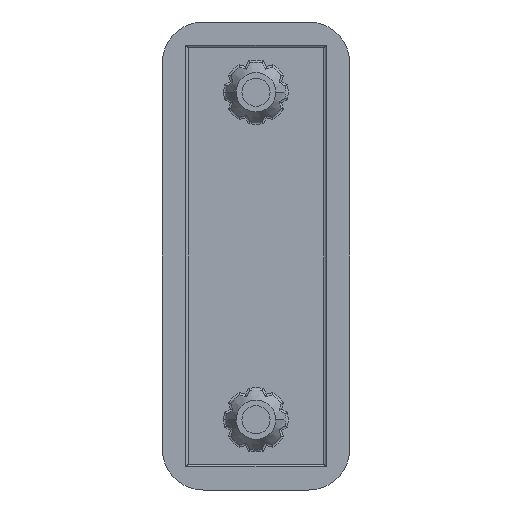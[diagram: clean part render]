
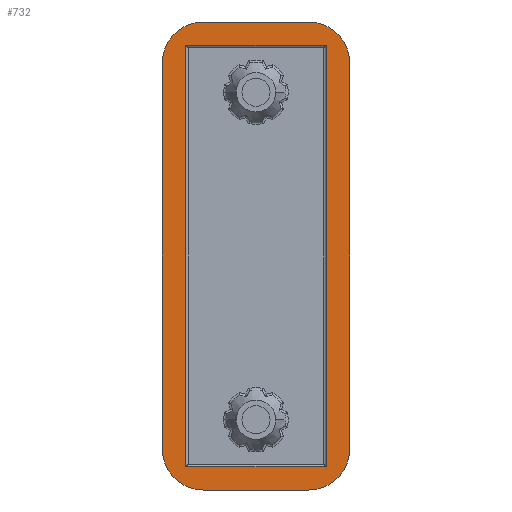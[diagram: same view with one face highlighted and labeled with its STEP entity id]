
A CAD part, front view. The second image highlights one B-rep face of the part: STEP entity #732.
In plain terms, the highlighted planar face has unit normal (0, -1, 0).
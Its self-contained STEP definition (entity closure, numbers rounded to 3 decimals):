
#18 = DIRECTION ( 'NONE',  ( 0., 0., -1. ) ) ;
#143 = ORIENTED_EDGE ( 'NONE', *, *, #2945, .F. ) ;
#173 = EDGE_CURVE ( 'NONE', #4690, #4057, #305, .T. ) ;
#174 = ORIENTED_EDGE ( 'NONE', *, *, #3417, .T. ) ;
#186 = VERTEX_POINT ( 'NONE', #3321 ) ;
#227 = CARTESIAN_POINT ( 'NONE',  ( 4.5, -4., -16.5 ) ) ;
#264 = ORIENTED_EDGE ( 'NONE', *, *, #3547, .T. ) ;
#305 = LINE ( 'NONE', #4151, #2199 ) ;
#324 = CARTESIAN_POINT ( 'NONE',  ( -4.5, -4., -16.5 ) ) ;
#356 = CARTESIAN_POINT ( 'NONE',  ( -6., -4., -20. ) ) ;
#428 = DIRECTION ( 'NONE',  ( -1., 0., 0. ) ) ;
#440 = CARTESIAN_POINT ( 'NONE',  ( -8., -4., -16.5 ) ) ;
#441 = CARTESIAN_POINT ( 'NONE',  ( 4.5, -4., 16.5 ) ) ;
#461 = DIRECTION ( 'NONE',  ( -1., 0., 0. ) ) ;
#555 = CARTESIAN_POINT ( 'NONE',  ( -4.5, -4., 16.5 ) ) ;
#565 = DIRECTION ( 'NONE',  ( -1., 0., 0. ) ) ;
#604 = EDGE_LOOP ( 'NONE', ( #3502, #3616, #2736, #4324 ) ) ;
#619 = VERTEX_POINT ( 'NONE', #3304 ) ;
#671 = VERTEX_POINT ( 'NONE', #440 ) ;
#672 = ORIENTED_EDGE ( 'NONE', *, *, #1721, .F. ) ;
#705 = VERTEX_POINT ( 'NONE', #4523 ) ;
#732 = ADVANCED_FACE ( 'NONE', ( #3490, #3218 ), #3663, .F. ) ;
#751 = ORIENTED_EDGE ( 'NONE', *, *, #2739, .T. ) ;
#770 = CIRCLE ( 'NONE', #1916, 3.5 ) ;
#784 = VERTEX_POINT ( 'NONE', #4037 ) ;
#796 = DIRECTION ( 'NONE',  ( -1., 0., 0. ) ) ;
#891 = VERTEX_POINT ( 'NONE', #4025 ) ;
#901 = DIRECTION ( 'NONE',  ( 0., 0., 1. ) ) ;
#916 = CARTESIAN_POINT ( 'NONE',  ( 6., -4., -18. ) ) ;
#1150 = LINE ( 'NONE', #4668, #2012 ) ;
#1289 = CARTESIAN_POINT ( 'NONE',  ( -8., -4., 20. ) ) ;
#1297 = CARTESIAN_POINT ( 'NONE',  ( -6., -4., -18. ) ) ;
#1313 = CARTESIAN_POINT ( 'NONE',  ( 8., -4., 20. ) ) ;
#1460 = CARTESIAN_POINT ( 'NONE',  ( -8., -4., 20. ) ) ;
#1469 = AXIS2_PLACEMENT_3D ( 'NONE', #441, #3054, #796 ) ;
#1502 = CARTESIAN_POINT ( 'NONE',  ( 8., -4., -20. ) ) ;
#1542 = VECTOR ( 'NONE', #428, 1000. ) ;
#1546 = CARTESIAN_POINT ( 'NONE',  ( 4.5, -4., 20. ) ) ;
#1613 = VECTOR ( 'NONE', #2058, 1000. ) ;
#1665 = AXIS2_PLACEMENT_3D ( 'NONE', #227, #2770, #565 ) ;
#1674 = CIRCLE ( 'NONE', #1469, 3.5 ) ;
#1680 = VECTOR ( 'NONE', #18, 1000. ) ;
#1721 = EDGE_CURVE ( 'NONE', #186, #619, #2374, .T. ) ;
#1899 = DIRECTION ( 'NONE',  ( 0., 1., 0. ) ) ;
#1916 = AXIS2_PLACEMENT_3D ( 'NONE', #324, #4391, #461 ) ;
#1933 = ORIENTED_EDGE ( 'NONE', *, *, #3201, .T. ) ;
#2012 = VECTOR ( 'NONE', #4617, 1000. ) ;
#2058 = DIRECTION ( 'NONE',  ( 0., 0., 1. ) ) ;
#2124 = AXIS2_PLACEMENT_3D ( 'NONE', #555, #2846, #4636 ) ;
#2136 = CARTESIAN_POINT ( 'NONE',  ( 8., -4., -16.5 ) ) ;
#2199 = VECTOR ( 'NONE', #2646, 1000. ) ;
#2328 = AXIS2_PLACEMENT_3D ( 'NONE', #1502, #1899, #2831 ) ;
#2374 = CIRCLE ( 'NONE', #2124, 3.5 ) ;
#2409 = DIRECTION ( 'NONE',  ( -1., 0., 0. ) ) ;
#2543 = EDGE_CURVE ( 'NONE', #3241, #671, #770, .T. ) ;
#2611 = CARTESIAN_POINT ( 'NONE',  ( 8., -4., 18. ) ) ;
#2646 = DIRECTION ( 'NONE',  ( 1., 0., 0. ) ) ;
#2736 = ORIENTED_EDGE ( 'NONE', *, *, #173, .F. ) ;
#2739 = EDGE_CURVE ( 'NONE', #3241, #705, #1150, .T. ) ;
#2748 = LINE ( 'NONE', #3612, #4589 ) ;
#2770 = DIRECTION ( 'NONE',  ( 0., 1., 0. ) ) ;
#2831 = DIRECTION ( 'NONE',  ( -1., 0., 0. ) ) ;
#2846 = DIRECTION ( 'NONE',  ( 0., 1., 0. ) ) ;
#2879 = EDGE_CURVE ( 'NONE', #4057, #3457, #2748, .T. ) ;
#2945 = EDGE_CURVE ( 'NONE', #3746, #705, #3473, .T. ) ;
#2999 = VECTOR ( 'NONE', #4114, 1000. ) ;
#3053 = EDGE_CURVE ( 'NONE', #891, #4690, #3859, .T. ) ;
#3054 = DIRECTION ( 'NONE',  ( 0., 1., 0. ) ) ;
#3066 = VECTOR ( 'NONE', #2409, 1000. ) ;
#3201 = EDGE_CURVE ( 'NONE', #3746, #784, #4582, .T. ) ;
#3218 = FACE_BOUND ( 'NONE', #604, .T. ) ;
#3241 = VERTEX_POINT ( 'NONE', #4395 ) ;
#3275 = EDGE_LOOP ( 'NONE', ( #3736, #264, #672, #174, #4439, #751, #143, #1933 ) ) ;
#3293 = EDGE_CURVE ( 'NONE', #3324, #784, #1674, .T. ) ;
#3304 = CARTESIAN_POINT ( 'NONE',  ( -4.5, -4., 20. ) ) ;
#3318 = LINE ( 'NONE', #1289, #3066 ) ;
#3321 = CARTESIAN_POINT ( 'NONE',  ( -8., -4., 16.5 ) ) ;
#3324 = VERTEX_POINT ( 'NONE', #1546 ) ;
#3417 = EDGE_CURVE ( 'NONE', #186, #671, #3902, .T. ) ;
#3457 = VERTEX_POINT ( 'NONE', #4177 ) ;
#3473 = CIRCLE ( 'NONE', #1665, 3.5 ) ;
#3490 = FACE_OUTER_BOUND ( 'NONE', #3275, .T. ) ;
#3502 = ORIENTED_EDGE ( 'NONE', *, *, #4397, .F. ) ;
#3547 = EDGE_CURVE ( 'NONE', #3324, #619, #3318, .T. ) ;
#3612 = CARTESIAN_POINT ( 'NONE',  ( 6., -4., -20. ) ) ;
#3616 = ORIENTED_EDGE ( 'NONE', *, *, #2879, .F. ) ;
#3623 = LINE ( 'NONE', #2611, #1542 ) ;
#3663 = PLANE ( 'NONE',  #2328 ) ;
#3736 = ORIENTED_EDGE ( 'NONE', *, *, #3293, .F. ) ;
#3746 = VERTEX_POINT ( 'NONE', #2136 ) ;
#3859 = LINE ( 'NONE', #356, #1680 ) ;
#3902 = LINE ( 'NONE', #1460, #2999 ) ;
#4025 = CARTESIAN_POINT ( 'NONE',  ( -6., -4., 18. ) ) ;
#4037 = CARTESIAN_POINT ( 'NONE',  ( 8., -4., 16.5 ) ) ;
#4057 = VERTEX_POINT ( 'NONE', #916 ) ;
#4114 = DIRECTION ( 'NONE',  ( 0., 0., -1. ) ) ;
#4151 = CARTESIAN_POINT ( 'NONE',  ( 8., -4., -18. ) ) ;
#4177 = CARTESIAN_POINT ( 'NONE',  ( 6., -4., 18. ) ) ;
#4324 = ORIENTED_EDGE ( 'NONE', *, *, #3053, .F. ) ;
#4391 = DIRECTION ( 'NONE',  ( 0., 1., 0. ) ) ;
#4395 = CARTESIAN_POINT ( 'NONE',  ( -4.5, -4., -20. ) ) ;
#4397 = EDGE_CURVE ( 'NONE', #3457, #891, #3623, .T. ) ;
#4439 = ORIENTED_EDGE ( 'NONE', *, *, #2543, .F. ) ;
#4523 = CARTESIAN_POINT ( 'NONE',  ( 4.5, -4., -20. ) ) ;
#4582 = LINE ( 'NONE', #1313, #1613 ) ;
#4589 = VECTOR ( 'NONE', #901, 1000. ) ;
#4617 = DIRECTION ( 'NONE',  ( 1., 0., 0. ) ) ;
#4636 = DIRECTION ( 'NONE',  ( -1., 0., 0. ) ) ;
#4668 = CARTESIAN_POINT ( 'NONE',  ( -8., -4., -20. ) ) ;
#4690 = VERTEX_POINT ( 'NONE', #1297 ) ;
